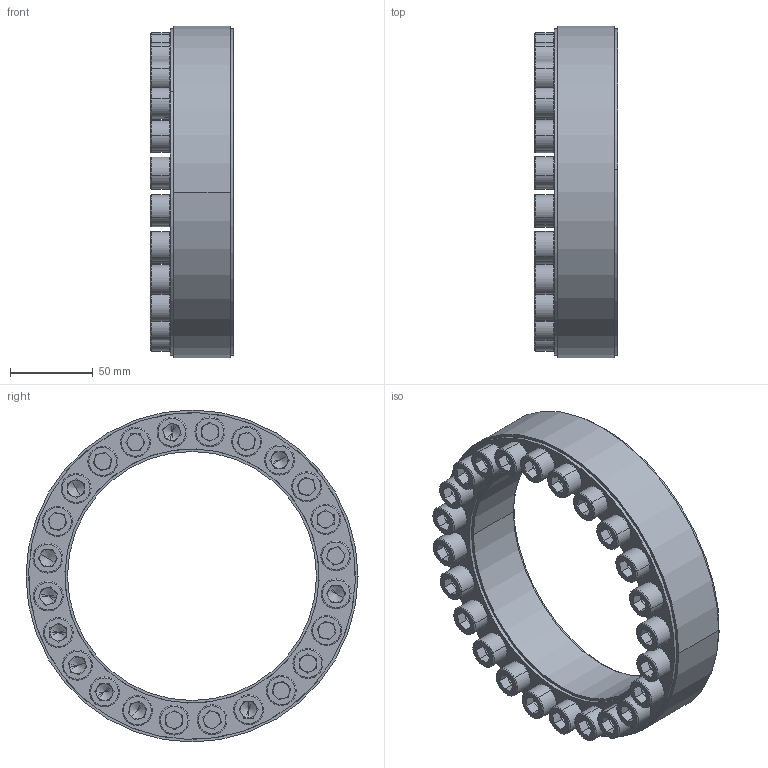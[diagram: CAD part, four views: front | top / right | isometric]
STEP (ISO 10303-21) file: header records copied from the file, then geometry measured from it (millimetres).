
FILE_DESCRIPTION (( 'STEP AP203' ), '1' );
FILE_NAME ('SAPL-150-200.STEP', '2018-12-15T00:41:58', ( '' ), ( '' ), 'SwSTEP 2.0', 'SolidWorks 2015', '' );
FILE_SCHEMA (( 'CONFIG_CONTROL_DESIGN' ));
Length unit declared in the file: millimetre
Products named in the file (1): SAPL-150-200
Bounding box: 50 x 200 x 200 mm (x, y, z)
Surface area: 151476.8 mm2 (no closed solid volume)
Topology: 0 solids, 52 shells, 583 faces, 1520 edges, 927 vertices
Faces by surface type: plane 289, cylinder 156, torus 96, cone 42
Entity records: 17627 total; most frequent: DIRECTION 3390, CARTESIAN_POINT 3009, ORIENTED_EDGE 2603, EDGE_CURVE 1498, AXIS2_PLACEMENT_3D 1308, VERTEX_POINT 927, LINE 774, VECTOR 774
